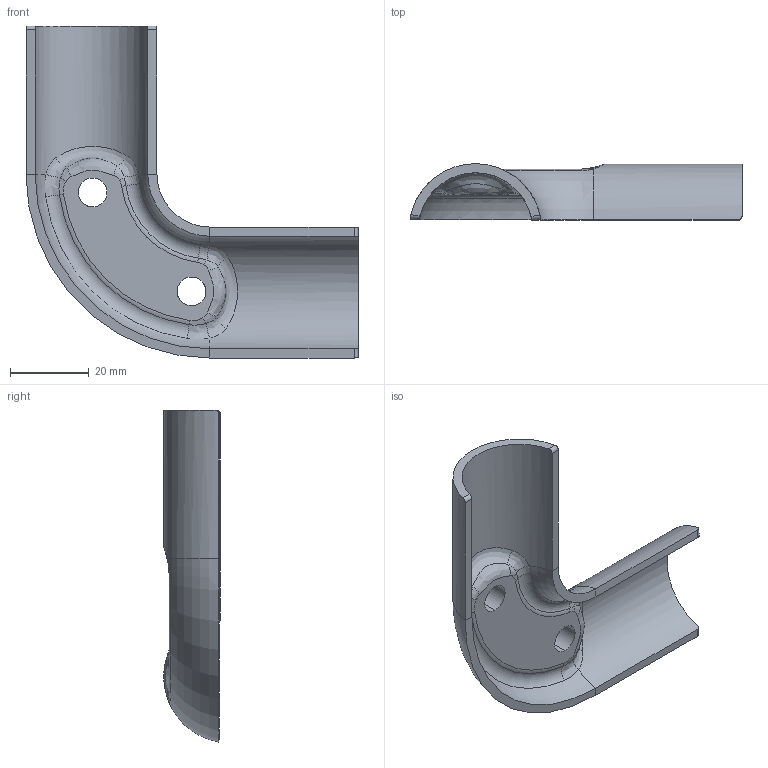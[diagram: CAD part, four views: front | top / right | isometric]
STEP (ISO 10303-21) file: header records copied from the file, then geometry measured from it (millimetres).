
FILE_DESCRIPTION (( 'STEP AP203' ), '1' );
FILE_NAME ('015.100.090.STEP', '2016-10-24T07:40:50', ( '' ), ( '' ), 'SwSTEP 2.0', 'SolidWorks 2016', '' );
FILE_SCHEMA (( 'CONFIG_CONTROL_DESIGN' ));
Length unit declared in the file: millimetre
Products named in the file (1): 015.100.090
Bounding box: 84.06 x 14.28 x 84.06 mm (x, y, z)
Volume: 15404.5 mm3; surface area: 11446.9 mm2
Topology: 1 solids, 1 shells, 71 faces, 173 edges, 102 vertices
Faces by surface type: bspline 34, torus 15, cylinder 12, plane 8, cone 2
Entity records: 3547 total; most frequent: CARTESIAN_POINT 1986, ORIENTED_EDGE 346, DIRECTION 280, EDGE_CURVE 173, AXIS2_PLACEMENT_3D 128, VERTEX_POINT 102, CIRCLE 90, EDGE_LOOP 73
